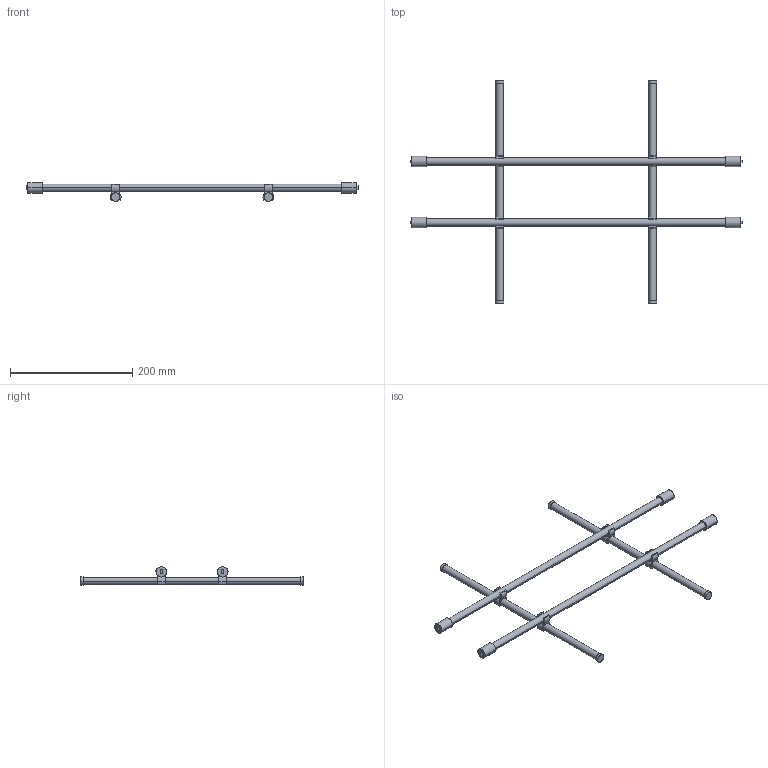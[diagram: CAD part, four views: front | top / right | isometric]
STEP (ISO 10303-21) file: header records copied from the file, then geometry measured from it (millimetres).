
FILE_DESCRIPTION (( 'STEP AP214' ), '1' );
FILE_NAME ('Magic-Classic_NL-400-KAB 600.step', '2010-09-16T12:49:15', ( 'grass' ), ( '' ), 'SwSTEP 2.0', 'SolidWorks 2010', '' );
FILE_SCHEMA (( 'AUTOMOTIVE_DESIGN' ));
Length unit declared in the file: millimetre
Products named in the file (1): Magic-Classic_NL-400-KAB 600
Bounding box: 543 x 365 x 30.45 mm (x, y, z)
Volume: 224582.5 mm3; surface area: 74543.5 mm2
Topology: 1 solids, 1 shells, 140 faces, 384 edges, 256 vertices
Faces by surface type: plane 76, cylinder 64
Entity records: 4546 total; most frequent: DIRECTION 826, CARTESIAN_POINT 781, ORIENTED_EDGE 768, EDGE_CURVE 384, AXIS2_PLACEMENT_3D 301, VERTEX_POINT 256, LINE 224, VECTOR 224
